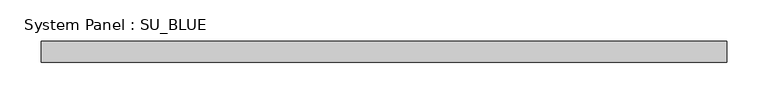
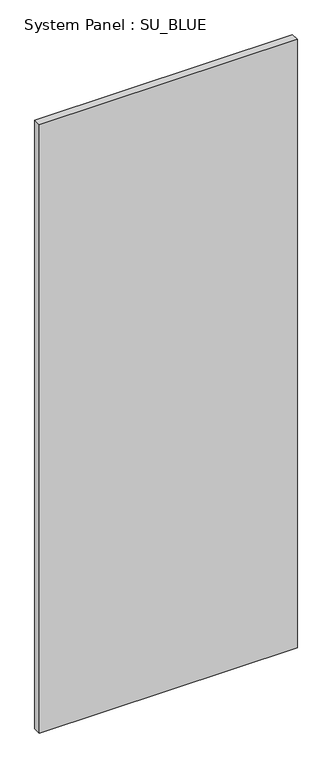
"""IFC4 building model written with IfcOpenShell, lengths in millimetres: plate geometry, System Panel : SU_BLUE."""

from ifc_helpers import new_model, si_unit, origin, origin_with_axes, place, context, project, spatial, polyline, outline, extrude, source, transform, mapped, element, save


def system_panel_su_blue_992d2dbe(model_context):
    return source(origin(), model_context, "Body", "SweptSolid", [
        extrude(outline(polyline([(415.3596078, 19.05), (-415.3596078, 19.05), (-415.3596078, 44.45), (415.3596078, 44.45), (415.3596078, 19.05)])), origin_with_axes(), (0.0, 0.0, 1.0), 2070.1),
    ])


if __name__ == "__main__":
    model = new_model("IFC4")
    model_context = context("Model", 3, world=origin())
    ifc_project = project(units=[si_unit("LENGTHUNIT", "METRE", prefix="MILLI")], contexts=[model_context])
    site = spatial("IfcSite", under=ifc_project)
    building = spatial("IfcBuilding", under=site)
    placement = place(None, origin())
    system_panel_su_blue_shape = system_panel_su_blue_992d2dbe(model_context)
    element("IfcPlate", 1, ObjectType="System Panel : SU_BLUE", at=placement, inside=building, context=model_context, shape_type="MappedRepresentation", body=[
        mapped(system_panel_su_blue_shape, transform((0.0, 0.0, 0.0), x_axis=(1.0, 0.0, 0.0), y_axis=(0.0, 1.0, 0.0), z_axis=(0.0, 0.0, 1.0))),
    ])
    save(model, "model.ifc")
